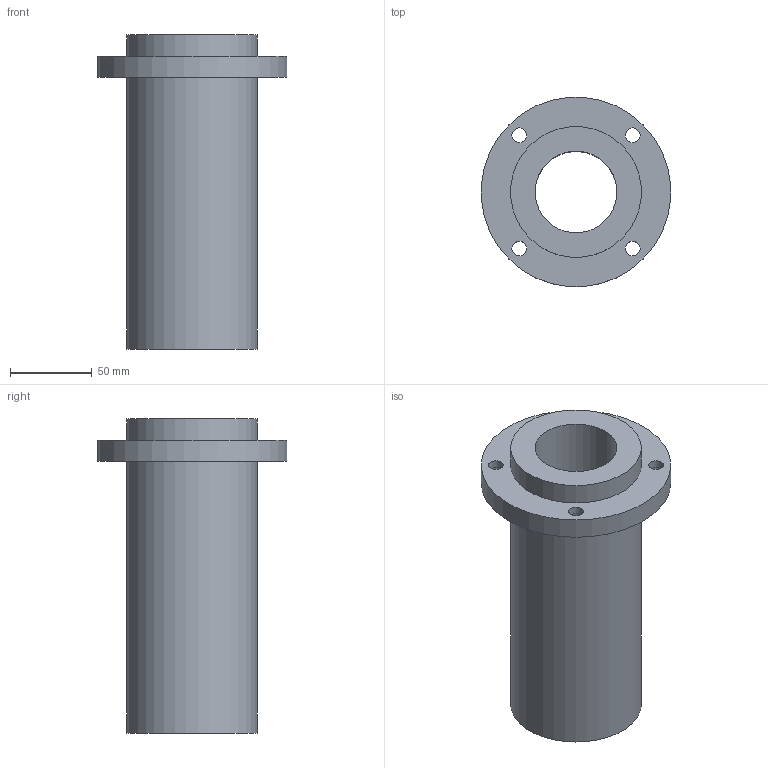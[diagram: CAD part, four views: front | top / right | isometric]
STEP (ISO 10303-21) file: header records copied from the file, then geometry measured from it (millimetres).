
FILE_DESCRIPTION(/* description */ (''),/* implementation_level */ '2;1');
FILE_NAME(/* name */ 'LMFP50LUU',/* time_stamp */ '2019-07-03T13:01:19+02:00',/* author */ ('VĂ©gh MĂˇtĂ©'),/* organization */ ('Bearing Kft'),/* preprocessor_version */ 'ST-DEVELOPER v16.7',/* originating_system */ 'DEX',/* authorisation */ $);
FILE_SCHEMA (('AUTOMOTIVE_DESIGN {1 0 10303 214 3 1 1}'));
Length unit declared in the file: millimetre
Products named in the file (1): LMFP50LUU
Bounding box: 115.56 x 115.56 x 192 mm (x, y, z)
Volume: 653902.1 mm3; surface area: 98602.5 mm2
Topology: 1 solids, 1 shells, 328 faces, 820 edges, 548 vertices
Faces by surface type: plane 253, bspline 61, cylinder 14
Full cylindrical faces by diameter (mm): 9 x4, 14 x4, 50 x1, 80 x2, 116 x1
Entity records: 13127 total; most frequent: CARTESIAN_POINT 5685, ORIENTED_EDGE 1602, DIRECTION 1243, EDGE_CURVE 801, LINE 651, VECTOR 651, VERTEX_POINT 544, EDGE_LOOP 407
